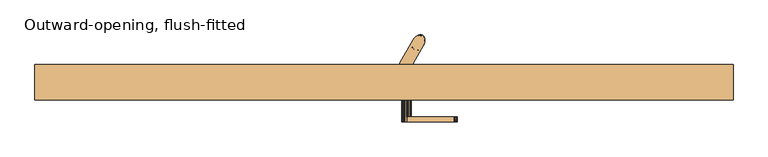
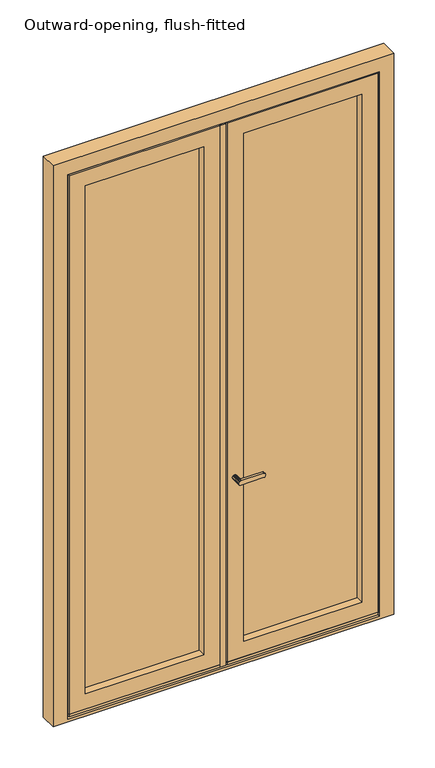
"""IFC4 building model written with IfcOpenShell, lengths in millimetres: door geometry, Outward-opening, flush-fitted."""

from ifc_helpers import new_model, si_unit, frame, origin, place, context, project, spatial, polyline, outline, extrude, faceted_brep, source, transform, mapped, element, save


def outward_opening_flush_fitted_ed5fb4ae(model_context):
    return source(origin(), model_context, "Body", "SolidModel", [
        faceted_brep([(178.0000305, 551.0, 3081.9999695), (178.0000305, 510.0, 3081.9999695), (178.0000305, 510.0, 275.0000305), (178.0000305, 551.0, 275.0000305), (93.0, 510.0, 3167.0), (93.0, 510.0, 190.0), (880.5, 510.0, 190.0), (880.5, 510.0, 3167.0), (795.4999695, 510.0, 3081.9999695), (795.4999695, 510.0, 275.0000305), (795.4999695, 551.0, 275.0000305), (163.0, 551.0, 260.0), (163.0, 551.0, 3097.0), (810.5, 551.0, 3097.0), (810.5, 551.0, 260.0), (795.4999695, 551.0, 3081.9999695), (163.0, 589.0, 3097.0), (163.0, 589.0, 260.0), (810.5, 589.0, 260.0), (810.5, 589.0, 3097.0), (180.0, 589.0, 277.0), (180.0, 589.0, 3080.0), (793.5, 589.0, 3080.0), (793.5, 589.0, 277.0), (180.0, 600.0, 3080.0), (180.0, 600.0, 277.0), (793.5, 600.0, 277.0), (61.0, 600.0, 158.0), (61.0, 600.0, 3199.0), (880.5, 600.0, 3199.0), (880.5, 600.0, 158.0), (793.5, 600.0, 3080.0), (61.0, 591.7, 3199.0), (61.0, 591.7, 158.0), (880.5, 591.7, 158.0), (880.5, 591.7, 178.5), (81.5, 591.7, 178.5), (81.5, 591.7, 3178.5), (880.5, 591.7, 3178.5), (880.5, 591.7, 3199.0), (81.5, 518.3, 3178.5), (81.5, 518.3, 178.5), (892.0, 591.7, 178.5), (892.0, 518.3, 178.5), (892.0, 518.3, 3178.5), (93.0, 518.3, 190.0), (93.0, 518.3, 3167.0), (880.5, 518.3, 3167.0), (880.5, 518.3, 190.0), (892.0, 591.7, 3178.5)], [[[0, 1, 2, 3]], [[4, 5, 6, 7], [2, 1, 8, 9]], [[3, 2, 9, 10]], [[11, 12, 13, 14], [0, 3, 10, 15]], [[16, 12, 11, 17]], [[17, 11, 14, 18]], [[16, 17, 18, 19], [20, 21, 22, 23]], [[24, 21, 20, 25]], [[25, 20, 23, 26]], [[27, 28, 29, 30], [24, 25, 26, 31]], [[32, 28, 27, 33]], [[33, 27, 30, 34]], [[32, 33, 34, 35, 36, 37, 38, 39]], [[40, 37, 36, 41]], [[41, 36, 35, 42, 43]], [[40, 41, 43, 44], [45, 46, 47, 48]], [[4, 46, 45, 5]], [[5, 45, 48, 6]], [[10, 9, 8, 15]], [[18, 14, 13, 19]], [[26, 23, 22, 31]], [[43, 42, 49, 44]], [[1, 0, 15, 8]], [[12, 16, 19, 13]], [[21, 24, 31, 22]], [[28, 32, 39, 29]], [[37, 40, 44, 49, 38]], [[46, 4, 7, 47]], [[38, 35, 34, 30, 29, 39]], [[35, 38, 49, 42]], [[6, 48, 47, 7]]]),
        faceted_brep([(949.0227579, 510.0, 1208.4772421), (951.5056846, 510.0, 1210.3824588), (954.397114, 510.0, 1211.5801281), (957.5, 510.0, 1211.9886308), (960.602886, 510.0, 1211.5801281), (963.4943154, 510.0, 1210.3824588), (965.9772421, 510.0, 1208.4772421), (967.8824588, 510.0, 1205.9943154), (969.0801281, 510.0, 1203.102886), (969.4886308, 510.0, 1200.0), (969.0801281, 510.0, 1196.897114), (967.8824588, 510.0, 1194.0056846), (965.9772421, 510.0, 1191.5227579), (963.4943154, 510.0, 1189.6175412), (960.602886, 510.0, 1188.4198719), (957.5, 510.0, 1188.0113692), (954.397114, 510.0, 1188.4198719), (951.5056846, 510.0, 1189.6175412), (949.0227579, 510.0, 1191.5227579), (947.1175412, 510.0, 1194.0056846), (945.9198719, 510.0, 1196.897114), (945.5113692, 510.0, 1200.0), (945.9198719, 510.0, 1203.102886), (947.1175412, 510.0, 1205.9943154), (960.602886, 466.5001175, 1188.4198719), (957.5, 466.5001175, 1188.0113692), (963.4943154, 466.5001175, 1189.6175412), (967.8824588, 466.5001175, 1194.0056846), (965.9772421, 466.5001175, 1191.5227579), (969.0801281, 466.5001175, 1196.897114), (969.4886308, 466.5001175, 1200.0), (969.0801281, 466.5001175, 1203.102886), (967.8824588, 466.5001175, 1205.9943154), (963.4943154, 466.5001175, 1210.3824588), (965.9772421, 466.5001175, 1208.4772421), (960.602886, 466.5001175, 1211.5801281), (957.5, 466.5001175, 1211.9886308), (954.397114, 454.0000305, 1211.5801281), (957.5, 454.0000305, 1211.9886308), (951.5056846, 454.0000305, 1210.3824588), (947.1175412, 454.0000305, 1205.9943154), (949.0227579, 454.0000305, 1208.4772421), (945.9198719, 454.0000305, 1203.102886), (945.5113692, 454.0000305, 1200.0), (945.9198719, 454.0000305, 1196.897114), (947.1175412, 454.0000305, 1194.0056846), (951.5056846, 454.0000305, 1189.6175412), (949.0227579, 454.0000305, 1191.5227579), (954.397114, 454.0000305, 1188.4198719), (957.5, 454.0000305, 1188.0113692), (1079.1617926, 454.0000305, 1188.0113692), (1080.7039971, 454.0000305, 1188.2417274), (1082.1869356, 454.0000305, 1188.9239494), (1083.5536195, 454.0000305, 1190.0318178), (1084.7515279, 454.0000305, 1191.5227579), (1085.734626, 454.0000305, 1193.3394736), (1086.4651338, 454.0000305, 1195.4121496), (1086.9149782, 454.0000305, 1197.6611342), (1087.0668721, 454.0000305, 1200.0), (1086.9149782, 454.0000305, 1202.3388658), (1086.4651338, 454.0000305, 1204.5878504), (1085.734626, 454.0000305, 1206.6605264), (1084.7515279, 454.0000305, 1208.4772421), (1083.5536195, 454.0000305, 1209.9681822), (1082.1869356, 454.0000305, 1211.0760506), (1080.7039971, 454.0000305, 1211.7582726), (1079.1617926, 454.0000305, 1211.9886308), (1086.4651338, 466.5001175, 1195.4121496), (1085.734626, 466.5001175, 1193.3394736), (1084.7515279, 466.5001175, 1191.5227579), (1083.5536195, 466.5001175, 1190.0318178), (1082.1869356, 466.5001175, 1188.9239494), (1080.7039971, 466.5001175, 1188.2417274), (1079.1617926, 466.5001175, 1188.0113692), (1079.1617926, 466.5001175, 1211.9886308), (1080.7039971, 466.5001175, 1211.7582726), (1082.1869356, 466.5001175, 1211.0760506), (1083.5536195, 466.5001175, 1209.9681822), (1084.7515279, 466.5001175, 1208.4772421), (1085.734626, 466.5001175, 1206.6605264), (1086.4651338, 466.5001175, 1204.5878504), (1086.9149782, 466.5001175, 1202.3388658), (1087.0668721, 466.5001175, 1200.0), (1086.9149782, 466.5001175, 1197.6611342), (1079.1617926, 461.0756599, 1188.0113692), (1082.8882212, 460.2500761, 1189.4269715), (1085.2725017, 460.2500743, 1192.3944932), (1086.726482, 460.250074, 1196.5198842), (1086.1334503, 460.250074, 1205.6514014), (1087.028807, 460.2500741, 1201.1750915), (1081.4565161, 460.250074, 1211.4724044), (1084.176722, 460.250074, 1209.2673369), (1079.1617926, 460.250074, 1211.9886308)], [[[0, 1, 2, 3, 4, 5, 6, 7, 8, 9, 10, 11, 12, 13, 14, 15, 16, 17, 18, 19, 20, 21, 22, 23]], [[14, 24, 25, 15]], [[13, 26, 24, 14]], [[27, 28, 12, 11]], [[13, 12, 28, 26]], [[29, 27, 11, 10]], [[30, 29, 10, 9]], [[8, 31, 30, 9]], [[7, 32, 31, 8]], [[33, 34, 6, 5]], [[7, 6, 34, 32]], [[35, 33, 5, 4]], [[36, 35, 4, 3]], [[2, 37, 38, 36, 3]], [[1, 39, 37, 2]], [[23, 40, 41, 0]], [[1, 0, 41, 39]], [[22, 42, 40, 23]], [[21, 43, 42, 22]], [[20, 44, 43, 21]], [[19, 45, 44, 20]], [[17, 46, 47, 18]], [[19, 18, 47, 45]], [[16, 48, 46, 17]], [[25, 49, 48, 16, 15]], [[45, 47, 46, 48, 49, 50, 51, 52, 53, 54, 55, 56, 57, 58, 59, 60, 61, 62, 63, 64, 65, 66, 38, 37, 39, 41, 40, 42, 43, 44]], [[67, 68, 69, 70, 71, 72, 73, 25, 24, 26, 28, 27, 29, 30, 31, 32, 34, 33, 35, 36, 74, 75, 76, 77, 78, 79, 80, 81, 82, 83]], [[49, 25, 73, 84, 50]], [[85, 52, 51]], [[53, 85, 86]], [[67, 87, 68]], [[69, 86, 70]], [[80, 88, 81]], [[72, 85, 84]], [[57, 56, 87]], [[60, 59, 89]], [[86, 87, 56]], [[76, 90, 91, 77]], [[86, 55, 54]], [[79, 78, 91, 88]], [[58, 87, 89]], [[70, 85, 71]], [[84, 73, 72]], [[50, 84, 51]], [[85, 72, 71]], [[58, 57, 87]], [[52, 85, 53]], [[86, 56, 55]], [[86, 54, 53]], [[68, 86, 69]], [[86, 85, 70]], [[74, 92, 75]], [[92, 66, 65]], [[62, 61, 88, 91]], [[87, 86, 68]], [[85, 51, 84]], [[87, 67, 83]], [[91, 90, 64, 63]], [[89, 87, 83]], [[61, 60, 88]], [[89, 88, 60]], [[90, 65, 64]], [[63, 62, 91]], [[89, 83, 82]], [[81, 89, 82]], [[88, 89, 81]], [[79, 88, 80]], [[90, 92, 65]], [[78, 77, 91]], [[75, 90, 76]], [[75, 92, 90]], [[59, 58, 89]], [[38, 66, 92, 74, 36]]]),
        extrude(outline(polyline([(919.5, 510.0), (919.5, 518.3), (1707.0, 518.3), (1707.0, 510.0), (919.5, 510.0)])), frame((0.0, 0.0, 176.0), z_axis=(0.0, 0.0, 1.0), x_axis=(1.0, 0.0, 0.0)), (0.0, 0.0, 1.0), 14.0),
        faceted_brep([(974.4561005, 600.0, 243.5), (974.4561005, 604.0, 243.5), (940.5438995, 604.0, 243.5), (940.5438995, 600.0, 243.5), (974.4561005, 604.0, 213.5), (940.5438995, 604.0, 213.5), (974.4561005, 600.0, 209.5), (974.4561005, 604.0, 209.5), (940.5438995, 600.0, 209.5), (940.5438995, 604.0, 209.5), (1000.8389949, 672.5301271, 213.5), (998.2797579, 674.6325794, 213.5), (995.1793625, 675.7977182, 213.5), (991.6932755, 675.9671186, 213.5), (987.9963038, 675.1322861, 213.5), (984.273829, 673.3350828, 213.5), (980.7125117, 670.6656279, 213.5), (977.4909311, 667.2577791, 213.5), (974.7706308, 663.2824201, 213.5), (1000.2047856, 648.5980002, 213.5), (1002.2873991, 652.9415279, 213.5), (1003.6278943, 657.4354221, 213.5), (1004.1590531, 661.8543403, 213.5), (1003.854241, 665.9766994, 213.5), (1002.7287425, 669.5957871, 213.5), (974.7706308, 663.2824201, 209.5), (977.4909311, 667.2577791, 209.5), (980.7125117, 670.6656279, 209.5), (984.273829, 673.3350828, 209.5), (987.9963038, 675.1322861, 209.5), (991.6932755, 675.9671186, 209.5), (995.1793625, 675.7977182, 209.5), (998.2797579, 674.6325794, 209.5), (1000.8389949, 672.5301271, 209.5), (1002.7287425, 669.5957871, 209.5), (1003.854241, 665.9766994, 209.5), (1004.1590531, 661.8543403, 209.5), (1003.6278943, 657.4354221, 209.5), (1002.2873991, 652.9415279, 209.5), (1000.2047856, 648.5980002, 209.5), (974.7706308, 663.2824201, 211.9099144), (1000.2047856, 648.5980002, 211.0900853), (1001.8743289, 671.1586471, 211.5), (989.8597053, 675.6737832, 211.5), (1004.1445577, 661.4468941, 211.5)], [[[0, 1, 2, 3]], [[4, 5, 2, 1]], [[6, 7, 4, 1, 0]], [[8, 6, 0, 3]], [[9, 8, 3, 2, 5]], [[10, 11, 12, 13, 14, 15, 16, 17, 18, 5, 4, 19, 20, 21, 22, 23, 24]], [[6, 8, 9, 25, 26, 27, 28, 29, 30, 31, 32, 33, 34, 35, 36, 37, 38, 39, 7]], [[9, 5, 18, 40, 25]], [[7, 39, 41, 19, 4]], [[40, 18, 17]], [[26, 25, 40]], [[24, 42, 10]], [[43, 27, 40]], [[40, 27, 26]], [[43, 30, 29]], [[15, 43, 16]], [[13, 43, 14]], [[32, 31, 43]], [[41, 39, 38]], [[20, 19, 41]], [[28, 43, 29]], [[17, 16, 40]], [[31, 30, 43]], [[35, 34, 42]], [[28, 27, 43]], [[20, 41, 44]], [[15, 14, 43]], [[13, 12, 43]], [[40, 16, 43]], [[11, 43, 12]], [[32, 43, 42]], [[34, 33, 42]], [[35, 44, 36]], [[38, 37, 41]], [[37, 44, 41]], [[36, 44, 37]], [[44, 21, 20]], [[42, 43, 11]], [[32, 42, 33]], [[42, 11, 10]], [[23, 42, 24]], [[44, 42, 23]], [[35, 42, 44]], [[23, 22, 44]], [[22, 21, 44]]]),
        faceted_brep([(1002.7287431, 669.5957857, 3143.5), (1000.8389959, 672.5301259, 3143.5), (998.2797595, 674.6325784, 3143.5), (995.1793647, 675.7977178, 3143.5), (991.6932781, 675.9671188, 3143.5), (987.9963068, 675.1322872, 3143.5), (984.2738322, 673.3350848, 3143.5), (980.712515, 670.6656309, 3143.5), (977.4909342, 667.257783, 3143.5), (974.7706335, 663.2824248, 3143.5), (972.6880202, 658.9388975, 3143.5), (971.347525, 654.4450036, 3143.5), (970.8163661, 650.0260857, 3143.5), (971.1211779, 645.9037268, 3143.5), (972.2466761, 642.2846393, 3143.5), (974.1364232, 639.3502991, 3143.5), (976.6956596, 637.2478466, 3143.5), (979.7960545, 636.0827073, 3143.5), (983.2821411, 635.9133062, 3143.5), (986.9791124, 636.7481378, 3143.5), (990.7015869, 638.5453402, 3143.5), (994.2629042, 641.2147941, 3143.5), (997.4844849, 644.622642, 3143.5), (1000.2047856, 648.5980002, 3143.5), (1002.287399, 652.9415275, 3143.5), (1003.6278941, 657.4354214, 3143.5), (1004.1590531, 661.8543393, 3143.5), (1003.8542412, 665.9766982, 3143.5), (979.7960545, 636.0827073, 213.5), (976.6956596, 637.2478466, 213.5), (974.1364232, 639.3502991, 213.5), (972.2466761, 642.2846393, 213.5), (971.1211779, 645.9037268, 213.5), (970.8163661, 650.0260857, 213.5), (971.347525, 654.4450036, 213.5), (972.6880202, 658.9388975, 213.5), (974.7706335, 663.2824248, 213.5), (977.4909342, 667.257783, 213.5), (980.712515, 670.6656309, 213.5), (984.2738322, 673.3350848, 213.5), (987.9963068, 675.1322872, 213.5), (991.6932781, 675.9671188, 213.5), (995.1793647, 675.7977178, 213.5), (998.2797595, 674.6325784, 213.5), (1000.8389959, 672.5301259, 213.5), (1002.7287431, 669.5957857, 213.5), (1003.8542412, 665.9766982, 213.5), (1004.1590531, 661.8543393, 213.5), (1003.6278941, 657.4354214, 213.5), (1002.287399, 652.9415275, 213.5), (1000.2047856, 648.5980002, 213.5), (997.4844849, 644.622642, 213.5), (994.2629042, 641.2147941, 213.5), (990.7015869, 638.5453402, 213.5), (986.9791124, 636.7481378, 213.5), (983.2821411, 635.9133062, 213.5), (998.0502556, 674.7610847, 3079.7380402), (1003.3914925, 667.8611962, 306.4022247), (1000.2047856, 648.5980002, 305.4130378), (989.859707, 675.6737836, 3050.5977728), (989.8597056, 675.6737832, 297.5191469), (996.7880419, 675.3371113, 368.2136807), (984.7975532, 673.6463918, 369.5360757), (991.2469978, 675.9183214, 447.2084663), (999.6357621, 673.6929778, 2988.7863044), (1004.1667927, 662.4635532, 2987.4639322), (1002.9131072, 669.1766102, 2913.2062685), (999.2192817, 674.017384, 2409.7470642), (986.8659446, 674.6876333, 2452.4375643), (998.4739944, 674.5174913, 2505.0162805), (1000.2047856, 648.5980002, 3051.5869622), (974.7706335, 663.2824248, 3051.5869586), (974.7706335, 663.2824248, 305.4130356), (987.3847143, 674.9025429, 2961.969358), (1000.2047856, 648.5980002, 397.3260755), (1003.9610733, 665.332167, 395.030656), (998.5058016, 674.498075, 277.2619537), (1004.1523314, 663.2227711, 1724.1060121), (1000.2047856, 648.5980002, 1769.7119622), (1000.2047856, 648.5980002, 1684.1086041), (1000.2047856, 648.5980002, 1678.5), (996.4457898, 675.4588495, 527.3867769), (1001.3278719, 671.9360197, 460.4029213), (997.5372093, 675.0207557, 2596.0713286), (985.9534283, 674.2648412, 2547.1852865), (985.6530213, 674.1130859, 2641.83422), (1003.3914918, 667.8611986, 3059.4808467), (1004.1432281, 663.4377541, 1359.2581708), (1000.2047856, 648.5980002, 1404.8641133), (1000.2047856, 648.5980002, 1316.4564502), (1000.2047856, 648.5980002, 1313.652151), (974.7706335, 663.2824248, 2959.673923), (986.2233357, 674.395863, 2823.9076024), (974.7706335, 663.2824248, 2778.6521525), (974.7706335, 663.2824248, 2867.7608867), (974.7706335, 663.2824248, 2869.1630378), (1000.2047856, 648.5980002, 764.9782266), (1004.1667946, 662.4619847, 729.3012539), (1004.1386405, 663.5297855, 810.934795), (997.5372092, 675.0207557, 2687.4402007), (997.5421341, 675.0184364, 1866.4260021), (998.3180035, 674.6103853, 1775.3205997), (985.6236508, 674.0979126, 1820.9265791), (1003.9960645, 665.0824095, 994.4103295), (1000.2047856, 648.5980002, 1040.0162643), (1000.2047856, 648.5980002, 948.8043021), (1004.0910081, 664.2169217, 1634.0302994), (1000.2047856, 648.5980002, 1587.2880378), (1004.0812109, 664.3262163, 1539.4103177), (988.9901607, 675.4509805, 1268.661843), (974.7706335, 663.2824248, 1224.5434147), (974.7706335, 663.2824248, 1313.652151), (974.7706335, 663.2824248, 1316.4564503), (998.0829736, 674.7432474, 1587.2880725), (998.240292, 674.6552453, 1495.9723965), (985.790026, 674.1830725, 1546.2390852), (974.7706335, 663.2824248, 1775.3205647), (974.7706335, 663.2824248, 1860.9239245), (974.7706335, 663.2824248, 1866.5325251), (1000.2047856, 648.5980002, 2225.7717734), (1004.1047992, 664.0497546, 2173.886039), (1004.108227, 664.005281, 2271.3777739), (985.6462162, 674.1095756, 2003.3232618), (997.5302824, 675.0240124, 1957.7445198), (985.6562276, 674.1147387, 1912.0563983), (1004.0845606, 664.289619, 2641.7557652), (985.5904113, 674.0806681, 2733.0461801), (996.41411, 675.4694341, 2764.577143), (1004.1590389, 663.0137697, 1450.4701311), (1000.2047856, 648.5980002, 1496.0760755), (1000.2047856, 648.5980002, 1408.3694886), (998.9872046, 674.1836001, 1404.8641518), (1004.142467, 661.4010489, 1997.7418929), (1004.0350969, 664.7689324, 1906.5299328), (1002.26216, 670.5132977, 2021.9103127), (1003.8434249, 666.0346915, 2075.1907571), (987.3532472, 674.8900311, 2364.4226633), (974.7706335, 663.2824248, 2322.5923388), (974.7706335, 663.2824248, 2408.1956979), (974.7706335, 663.2824248, 2413.8042992), (997.2274408, 675.1601998, 2136.3035424), (996.5316123, 675.4296, 2050.7292003), (985.2903058, 673.9214837, 2094.5624594), (1004.1353361, 663.5913952, 2546.065268), (994.8884172, 675.8525719, 2903.7179625), (999.6435788, 673.6865498, 2837.590232), (986.2521526, 674.4095548, 1448.6688004), (985.1360791, 673.8372234, 1086.6739061), (986.0909148, 674.3322101, 1178.586942), (999.1168913, 674.0919457, 1127.9864977), (987.2689244, 674.8561695, 1352.6068721), (996.6863809, 675.3747017, 1040.7173889), (985.4407446, 674.0020674, 991.5843918), (985.426169, 673.9943292, 902.8478344), (974.7706335, 663.2824248, 948.8043021), (1000.2047856, 648.5980002, 2043.347849), (1000.2047856, 648.5980002, 1957.7444883), (1000.2047856, 648.5980002, 1952.1358867), (997.6360492, 674.9735804, 2225.5340426), (974.7706335, 663.2824248, 1408.3694859), (974.7706335, 663.2824248, 1496.0760755), (974.7706335, 663.2824248, 1500.2825273), (985.6436785, 674.1082657, 2185.7200467), (985.6761919, 674.1250138, 2276.9863796), (1004.1540023, 663.176361, 2454.1522322), (1000.2047856, 648.5980002, 2500.1087357), (1000.2047856, 648.5980002, 2413.8042991), (1000.2047856, 648.5980002, 2408.1956979), (974.7706335, 663.2824248, 2140.1684179), (1004.1476808, 663.3391965, 2362.5897342), (998.0782705, 674.7458212, 2314.751399), (985.6795619, 674.1267456, 1638.152121), (974.7706335, 663.2824248, 1592.1955686), (974.7706335, 663.2824248, 1678.5), (974.7706335, 663.2824248, 1684.1086042), (1004.1378645, 663.5445737, 902.8478311), (1000.2047856, 648.5980002, 856.8912643), (1004.1080675, 660.8204897, 461.0188884), (1000.2047856, 648.5980002, 489.2391133), (1000.2047856, 648.5980002, 581.152151), (1004.0915247, 664.2109596, 535.1956817), (1004.1476083, 663.34089, 625.0231551), (1000.5404256, 672.8545378, 687.0081892), (991.6427447, 675.9623413, 618.1162757), (986.6250235, 674.581566, 709.2800933), (1004.1488698, 663.3109436, 1084.2629381), (1004.1300635, 663.6831987, 1265.4959437), (981.7827971, 671.5747831, 429.2632891), (974.7706335, 663.2824248, 397.326077), (974.7706335, 663.2824248, 856.8912608), (1000.5765226, 672.816715, 591.4465366), (1000.2047856, 648.5980002, 673.0651888), (996.6690667, 675.3809822, 765.1720699), (985.8081612, 674.1922389, 810.9347985), (998.2797594, 674.6325785, 849.074452), (983.8642076, 673.0777933, 2893.9193924), (974.7706335, 663.2824248, 2687.4401921), (974.7706335, 663.2824248, 2775.847849), (1004.0022221, 665.0357025, 2737.7503545), (1003.7943239, 658.2981464, 2904.9330373), (1004.1654893, 662.675366, 2845.9868347), (974.7706335, 663.2824248, 2596.2282259), (974.7706335, 663.2824248, 2683.9348112), (974.7706335, 663.2824248, 2500.1087357), (974.7706335, 663.2824248, 2505.0162597), (1000.2047856, 648.5980002, 2775.847849), (1000.2047856, 648.5980002, 2687.4401891), (1000.2047856, 648.5980002, 2683.9348112), (1000.2047856, 648.5980002, 2316.9837357), (1000.2047856, 648.5980002, 2231.3803725), (974.7706335, 663.2824248, 2231.3803784), (974.7706335, 663.2824248, 2316.9837357), (1000.2047856, 648.5980002, 2592.0217734), (1000.2047856, 648.5980002, 2505.0162625), (1000.2047856, 648.5980002, 2322.5923358), (1000.2047856, 648.5980002, 2134.5598112), (1000.2047856, 648.5980002, 1866.5325307), (1000.2047856, 648.5980002, 1860.9239245), (974.7706335, 663.2824248, 2048.9564517), (974.7706335, 663.2824248, 2134.5598112), (998.1209471, 674.7223457, 1681.3109984), (974.7706335, 663.2824248, 2225.7717734), (1004.1410665, 663.4821612, 1815.3179724), (1000.2047856, 648.5980002, 1775.3205674), (974.7706335, 663.2824248, 1952.1358867), (974.7706335, 663.2824248, 1957.7444855), (986.1515406, 674.3615022, 1729.714619), (974.7706335, 663.2824248, 1769.7119622), (974.7706335, 663.2824248, 1587.2880378), (974.7706335, 663.2824248, 1404.8641133), (974.7706335, 663.2824248, 2043.347849), (999.0815314, 674.117241, 1314.91521), (998.6640506, 674.399024, 1217.3396976), (974.7706335, 663.2824248, 1132.6303791), (974.7706335, 663.2824248, 1222.4401888), (1000.2047856, 648.5980002, 1500.2825271), (1000.2047856, 648.5980002, 1592.1955656), (1004.1298018, 663.6875728, 1174.2378881), (1000.2047856, 648.5980002, 1222.4401888), (997.4523204, 675.0602236, 944.8711335), (1000.2047856, 648.5980002, 1131.2282266), (1000.2047856, 648.5980002, 1040.7173405), (1000.2047856, 648.5980002, 1132.6303732), (1000.2047856, 648.5980002, 1224.5434117), (974.7706335, 663.2824248, 764.9782251), (974.7706335, 663.2824248, 581.1521539), (974.7706335, 663.2824248, 673.0651895), (981.1340376, 671.0354456, 627.1087243), (974.7706335, 663.2824248, 1040.7173435), (974.7706335, 663.2824248, 1131.2282266), (974.7706335, 663.2824248, 1040.0162643), (974.7706335, 663.2824248, 2592.0217734), (983.9200666, 673.1136004, 535.1956868), (1000.2047856, 648.5980002, 2596.2282258), (1000.2047856, 648.5980002, 2048.9564516), (1000.2047856, 648.5980002, 2140.1684149), (974.7706335, 663.2824248, 489.2391183), (1000.2047856, 648.5980002, 2867.7608867), (1000.2047856, 648.5980002, 2959.6739245), (1000.2047856, 648.5980002, 2778.6521525), (1000.2047856, 648.5980002, 2869.1630406), (976.9251635, 637.1193403, 3079.7380402), (971.5839266, 644.0192288, 306.4022247), (985.1157121, 636.2066414, 3050.5977728), (985.1157135, 636.2066418, 297.5191469), (978.1873773, 636.5433137, 368.2136807), (990.1778659, 638.2340332, 369.5360757), (983.7284213, 635.9621036, 447.2084663), (975.339657, 638.1874472, 2988.7863044), (970.8086265, 649.4168718, 2987.4639322), (972.062312, 642.7038148, 2913.2062685), (975.7561375, 637.863041, 2409.7470642), (988.1094745, 637.1927917, 2452.4375643), (976.5014247, 637.3629337, 2505.0162805), (987.5907049, 636.9778821, 2961.969358), (971.0143458, 646.548258, 395.030656), (976.4696176, 637.38235, 277.2619537), (970.8230877, 648.6576539, 1724.1060121), (978.5296294, 636.4215755, 527.3867769), (973.6475472, 639.9444054, 460.4029213), (977.4382098, 636.8596693, 2596.0713286), (989.0219908, 637.6155838, 2547.1852865), (989.3223978, 637.7673391, 2641.83422), (971.5839274, 644.0192264, 3059.4808467), (975.9882145, 637.6968249, 1404.8641518), (970.832191, 648.4426709, 1359.2581708), (975.8938878, 637.763184, 1314.91521), (988.7520835, 637.484562, 2823.9076024), (970.8086246, 649.4184403, 729.3012539), (970.8367786, 648.3506395, 810.934795), (977.4382099, 636.8596693, 2687.4402007), (977.4332851, 636.8619886, 1866.4260021), (976.6574157, 637.2700397, 1775.3205997), (989.3517684, 637.7825124, 1820.9265791), (970.9793547, 646.7980155, 994.4103295), (970.884411, 647.6635033, 1634.0302994), (970.8942082, 647.5542087, 1539.4103177), (985.9852584, 636.4294445, 1268.661843), (976.8924456, 637.1371776, 1587.2880725), (976.7351271, 637.2251797, 1495.9723965), (989.1853931, 637.6973525, 1546.2390852), (970.8706199, 647.8306704, 2173.886039), (970.8671922, 647.875144, 2271.3777739), (989.3292029, 637.7708494, 2003.3232618), (977.4451368, 636.8564126, 1957.7445198), (989.3191915, 637.7656863, 1912.0563983), (970.8908585, 647.590806, 2641.7557652), (989.3850079, 637.7997569, 2733.0461801), (978.5613091, 636.4109909, 2764.577143), (970.8163802, 648.8666553, 1450.4701311), (970.8329521, 650.4793761, 1997.7418929), (970.9403223, 647.1114926, 1906.5299328), (972.7132591, 641.3671273, 2021.9103127), (971.1319943, 645.8457335, 2075.1907571), (987.6221719, 636.9903939, 2364.4226633), (977.7479784, 636.7202252, 2136.3035424), (978.4438068, 636.450825, 2050.7292003), (989.6851134, 637.9589413, 2094.5624594), (970.840083, 648.2890298, 2546.065268), (980.0870019, 636.0278531, 2903.7179625), (975.3318403, 638.1938752, 2837.590232), (988.7232666, 637.4708702, 1448.6688004), (989.8393401, 638.0432016, 1086.6739061), (988.8845043, 637.5482149, 1178.586942), (975.8585279, 637.7884793, 1127.9864977), (987.7064948, 637.0242555, 1352.6068721), (978.2890382, 636.5057233, 1040.7173889), (989.5346745, 637.8783576, 991.5843918), (989.5492502, 637.8860958, 902.8478344), (977.3393699, 636.9068446, 2225.5340426), (989.3317407, 637.7721593, 2185.7200467), (989.2992273, 637.7554112, 2276.9863796), (970.8214168, 648.704064, 2454.1522322), (970.8277383, 648.5412285, 2362.5897342), (976.8971487, 637.1346038, 2314.751399), (989.2958573, 637.7536794, 1638.152121), (970.8375547, 648.3358513, 902.8478311), (970.8673516, 651.0599353, 461.0188884), (970.8838944, 647.6694654, 535.1956817), (970.8278109, 648.539535, 625.0231551), (974.4349936, 639.0258872, 687.0081892), (983.3326745, 635.9180837, 618.1162757), (988.3503956, 637.298859, 709.2800933), (970.8265493, 648.5694814, 1084.2629381), (970.8453557, 648.1972263, 1265.4959437), (993.1926221, 640.3056419, 429.2632891), (974.3988966, 639.06371, 591.4465366), (978.3063525, 636.4994428, 765.1720699), (989.167258, 637.6881861, 810.9347985), (976.6956597, 637.2478465, 849.074452), (991.1112116, 638.8026317, 2893.9193924), (970.9731971, 646.8447225, 2737.7503545), (971.1810952, 653.5822786, 2904.9330373), (970.8099299, 649.205059, 2845.9868347), (976.854472, 637.1580793, 1681.3109984), (970.8343527, 648.3982638, 1815.3179724), (988.8238786, 637.5189228, 1729.714619), (976.3113685, 637.481401, 1217.3396976), (970.8456173, 648.1928522, 1174.2378881), (977.5230988, 636.8202014, 944.8711335), (993.8413816, 640.8449794, 627.1087243), (991.0553525, 638.7668246, 535.1956868)], [[[0, 1, 2, 3, 4, 5, 6, 7, 8, 9, 10, 11, 12, 13, 14, 15, 16, 17, 18, 19, 20, 21, 22, 23, 24, 25, 26, 27]], [[28, 29, 30, 31, 32, 33, 34, 35, 36, 37, 38, 39, 40, 41, 42, 43, 44, 45, 46, 47, 48, 49, 50, 51, 52, 53, 54, 55]], [[2, 1, 56]], [[57, 58, 48]], [[7, 6, 59]], [[5, 4, 59]], [[38, 60, 39]], [[61, 62, 63]], [[4, 3, 56]], [[64, 65, 66]], [[40, 60, 41]], [[67, 68, 69]], [[24, 23, 70]], [[58, 50, 49]], [[71, 9, 8]], [[37, 36, 72]], [[73, 59, 64]], [[60, 40, 39]], [[74, 58, 75]], [[45, 76, 57]], [[77, 78, 79, 80]], [[71, 8, 7]], [[63, 81, 82]], [[83, 84, 85]], [[25, 86, 26]], [[24, 70, 25]], [[87, 88, 89, 90]], [[75, 58, 57]], [[72, 62, 60]], [[5, 59, 6]], [[91, 71, 73]], [[70, 65, 86]], [[42, 41, 76]], [[46, 57, 47]], [[92, 93, 94, 95]], [[96, 97, 98]], [[43, 42, 76]], [[99, 83, 85]], [[86, 27, 26]], [[100, 101, 102]], [[4, 56, 59]], [[64, 56, 86]], [[68, 84, 69]], [[46, 45, 57]], [[58, 49, 48]], [[76, 41, 60]], [[59, 71, 7]], [[45, 44, 76]], [[56, 1, 0]], [[75, 57, 61]], [[61, 76, 60]], [[27, 86, 0]], [[47, 57, 48]], [[37, 72, 38]], [[103, 104, 105]], [[0, 86, 56]], [[38, 72, 60]], [[73, 71, 59]], [[64, 86, 65]], [[61, 60, 62]], [[25, 70, 86]], [[106, 107, 108]], [[109, 110, 111, 112]], [[113, 114, 115]], [[102, 116, 117, 118]], [[119, 120, 121]], [[122, 123, 124]], [[99, 125, 83]], [[126, 92, 127]], [[128, 129, 130, 88]], [[128, 87, 131]], [[123, 132, 133]], [[134, 135, 132]], [[136, 137, 138, 139]], [[140, 141, 142]], [[143, 69, 83]], [[144, 66, 145]], [[115, 114, 146]], [[147, 148, 149]], [[150, 146, 131]], [[151, 152, 147]], [[152, 153, 154]], [[132, 155, 156, 157]], [[121, 120, 158]], [[146, 159, 160, 161]], [[162, 163, 158]], [[164, 165, 166, 167]], [[168, 162, 142]], [[169, 121, 170]], [[171, 172, 173, 174]], [[98, 175, 176]], [[177, 178, 74]], [[179, 180, 181]], [[182, 183, 184]], [[103, 185, 104]], [[186, 87, 90]], [[187, 62, 188]], [[179, 178, 180]], [[154, 153, 189]], [[181, 180, 190]], [[180, 177, 82]], [[191, 181, 97]], [[82, 81, 180]], [[105, 176, 175]], [[182, 184, 192]], [[193, 194, 192]], [[195, 95, 91]], [[126, 196, 197, 93]], [[99, 198, 125]], [[66, 199, 200]], [[93, 92, 126]], [[195, 144, 92]], [[144, 145, 92]], [[84, 201, 85]], [[85, 201, 202, 196]], [[126, 127, 99]], [[68, 139, 203, 204]], [[84, 68, 204]], [[83, 69, 84]], [[143, 83, 125]], [[198, 205, 206, 207]], [[125, 198, 207]], [[137, 136, 163]], [[67, 136, 68]], [[121, 208, 209, 119]], [[163, 210, 211, 137]], [[143, 212, 213, 165]], [[210, 163, 162]], [[170, 163, 136]], [[169, 167, 214, 208]], [[164, 167, 169]], [[158, 170, 121]], [[140, 120, 135]], [[120, 215, 135]], [[122, 142, 141]], [[133, 157, 216, 217]], [[126, 85, 196]], [[85, 126, 99]], [[143, 164, 69]], [[212, 143, 125]], [[67, 69, 164]], [[142, 218, 219, 168]], [[140, 162, 158]], [[67, 169, 170]], [[169, 208, 121]], [[220, 77, 106]], [[162, 168, 221, 210]], [[123, 133, 100]], [[155, 132, 135]], [[222, 217, 223, 78]], [[73, 64, 144]], [[145, 198, 127]], [[165, 164, 143]], [[67, 164, 169]], [[120, 140, 158]], [[170, 158, 163]], [[122, 218, 142]], [[140, 142, 162]], [[124, 118, 224, 225]], [[122, 124, 225]], [[118, 124, 102]], [[124, 123, 100]], [[220, 171, 226]], [[226, 174, 227, 116]], [[226, 101, 220]], [[102, 124, 100]], [[222, 101, 100]], [[171, 174, 226]], [[115, 161, 228, 172]], [[113, 220, 106]], [[146, 161, 115]], [[220, 113, 171]], [[150, 112, 229, 159]], [[146, 150, 159]], [[108, 113, 106]], [[133, 217, 222]], [[113, 108, 114]], [[114, 128, 131]], [[80, 106, 77]], [[133, 222, 100]], [[77, 220, 101]], [[122, 225, 230, 218]], [[102, 226, 116]], [[101, 226, 102]], [[171, 115, 172]], [[113, 115, 171]], [[77, 222, 78]], [[101, 222, 77]], [[110, 109, 148]], [[231, 186, 232]], [[147, 233, 148]], [[148, 233, 234, 110]], [[231, 232, 109]], [[108, 107, 235, 129]], [[106, 80, 236, 107]], [[114, 131, 146]], [[150, 131, 231]], [[129, 128, 108]], [[87, 231, 131]], [[232, 186, 237]], [[186, 238, 237]], [[114, 108, 128]], [[128, 88, 87]], [[109, 150, 231]], [[231, 87, 186]], [[237, 149, 232]], [[185, 149, 237]], [[151, 103, 239]], [[240, 185, 237]], [[239, 175, 194]], [[232, 149, 148]], [[103, 151, 185]], [[151, 149, 185]], [[185, 240, 241, 104]], [[237, 238, 242, 240]], [[186, 90, 243, 238]], [[193, 153, 194]], [[184, 244, 193]], [[189, 193, 244]], [[239, 194, 153]], [[245, 246, 247]], [[190, 81, 183]], [[189, 153, 193]], [[151, 239, 152]], [[153, 152, 239]], [[103, 175, 239]], [[147, 248, 249, 233]], [[152, 154, 250, 248]], [[105, 175, 103]], [[96, 98, 176]], [[98, 194, 175]], [[192, 194, 98]], [[248, 147, 152]], [[149, 151, 147]], [[84, 204, 251, 201]], [[170, 136, 67]], [[139, 68, 136]], [[122, 141, 123]], [[141, 140, 135]], [[191, 97, 96]], [[190, 183, 182]], [[191, 179, 181]], [[247, 246, 184]], [[252, 247, 183]], [[125, 207, 253, 212]], [[135, 215, 254, 155]], [[120, 119, 255, 215]], [[112, 150, 109]], [[109, 232, 148]], [[256, 245, 252]], [[188, 62, 72]], [[75, 61, 82]], [[62, 187, 63]], [[252, 81, 63]], [[200, 199, 257]], [[258, 65, 70]], [[205, 198, 200]], [[65, 199, 66]], [[200, 145, 66]], [[193, 192, 184]], [[97, 182, 192]], [[145, 200, 198]], [[200, 257, 259, 205]], [[63, 82, 61]], [[177, 75, 82]], [[134, 141, 135]], [[132, 157, 133]], [[246, 244, 184]], [[66, 144, 64]], [[195, 73, 144]], [[73, 195, 91]], [[195, 92, 95]], [[98, 97, 192]], [[181, 182, 97]], [[187, 256, 252]], [[81, 252, 183]], [[75, 177, 74]], [[178, 177, 180]], [[99, 127, 198]], [[145, 127, 92]], [[199, 258, 260, 257]], [[258, 199, 65]], [[63, 187, 252]], [[187, 188, 256]], [[43, 76, 44]], [[57, 76, 61]], [[2, 56, 3]], [[59, 56, 64]], [[81, 190, 180]], [[181, 190, 182]], [[134, 123, 141]], [[134, 132, 123]], [[245, 247, 252]], [[183, 247, 184]], [[16, 15, 261]], [[262, 72, 34]], [[21, 20, 263]], [[19, 18, 263]], [[52, 264, 53]], [[265, 266, 267]], [[18, 17, 261]], [[268, 269, 270]], [[54, 264, 55]], [[271, 272, 273]], [[10, 9, 71]], [[72, 36, 35]], [[70, 23, 22]], [[51, 50, 58]], [[274, 263, 268]], [[264, 54, 53]], [[188, 72, 275]], [[31, 276, 262]], [[277, 227, 174, 173]], [[70, 22, 21]], [[267, 278, 279]], [[280, 281, 282]], [[11, 283, 12]], [[10, 71, 11]], [[284, 285, 286]], [[275, 72, 262]], [[58, 266, 264]], [[19, 263, 20]], [[258, 70, 274]], [[71, 269, 283]], [[28, 55, 276]], [[32, 262, 33]], [[287, 259, 257, 260]], [[244, 288, 289]], [[29, 28, 276]], [[290, 280, 282]], [[283, 13, 12]], [[291, 292, 293]], [[18, 261, 263]], [[268, 261, 283]], [[272, 281, 273]], [[32, 31, 262]], [[72, 35, 34]], [[276, 55, 264]], [[263, 70, 21]], [[31, 30, 276]], [[261, 15, 14]], [[275, 262, 265]], [[265, 276, 264]], [[13, 283, 14]], [[33, 262, 34]], [[51, 58, 52]], [[294, 250, 154]], [[14, 283, 261]], [[52, 58, 264]], [[274, 70, 263]], [[268, 283, 269]], [[265, 264, 266]], [[11, 71, 283]], [[295, 228, 296]], [[297, 243, 90, 89]], [[298, 299, 300]], [[293, 223, 217, 216]], [[221, 301, 302]], [[303, 304, 305]], [[290, 306, 280]], [[307, 287, 308]], [[285, 229, 112, 111]], [[309, 285, 284]], [[304, 310, 311]], [[312, 313, 310]], [[314, 214, 167, 166]], [[315, 316, 317]], [[318, 273, 280]], [[319, 270, 320]], [[300, 299, 321]], [[322, 323, 324]], [[325, 321, 284]], [[326, 327, 322]], [[327, 328, 105]], [[310, 230, 225, 224]], [[302, 301, 329]], [[321, 130, 129, 235]], [[330, 331, 329]], [[332, 203, 139, 138]], [[255, 330, 317]], [[333, 302, 334]], [[335, 236, 80, 79]], [[289, 336, 189]], [[337, 256, 188]], [[245, 338, 339]], [[340, 341, 342]], [[294, 343, 250]], [[344, 285, 111]], [[345, 266, 74]], [[245, 256, 338]], [[105, 328, 176]], [[339, 338, 346]], [[338, 337, 279]], [[246, 339, 288]], [[279, 278, 338]], [[154, 189, 336]], [[340, 342, 347]], [[348, 349, 347]], [[350, 260, 258]], [[307, 206, 205, 259]], [[290, 351, 306]], [[270, 352, 353]], [[259, 287, 307]], [[350, 319, 287]], [[319, 320, 287]], [[281, 253, 282]], [[282, 253, 207, 206]], [[307, 308, 290]], [[272, 166, 165, 213]], [[281, 272, 213]], [[280, 273, 281]], [[318, 280, 306]], [[351, 197, 196, 202]], [[306, 351, 202]], [[214, 314, 331]], [[271, 314, 272]], [[302, 211, 210, 221]], [[331, 209, 208, 214]], [[318, 251, 204, 203]], [[209, 331, 330]], [[334, 331, 314]], [[333, 138, 137, 211]], [[332, 138, 333]], [[329, 334, 302]], [[315, 301, 313]], [[301, 219, 313]], [[303, 317, 316]], [[311, 224, 118, 117]], [[307, 282, 206]], [[282, 307, 290]], [[318, 332, 273]], [[251, 318, 306]], [[271, 273, 332]], [[317, 254, 215, 255]], [[315, 330, 329]], [[271, 333, 334]], [[333, 211, 302]], [[354, 277, 295]], [[330, 255, 119, 209]], [[304, 311, 291]], [[230, 310, 313]], [[355, 117, 116, 227]], [[274, 268, 319]], [[320, 351, 308]], [[203, 332, 318]], [[271, 332, 333]], [[301, 315, 329]], [[334, 329, 331]], [[303, 254, 317]], [[315, 317, 330]], [[305, 216, 157, 156]], [[303, 305, 156]], [[216, 305, 293]], [[305, 304, 291]], [[354, 335, 356]], [[356, 79, 78, 223]], [[356, 292, 354]], [[293, 305, 291]], [[355, 292, 291]], [[335, 79, 356]], [[300, 235, 107, 236]], [[298, 354, 295]], [[321, 235, 300]], [[354, 298, 335]], [[325, 89, 88, 130]], [[321, 325, 130]], [[296, 298, 295]], [[311, 117, 355]], [[298, 296, 299]], [[299, 309, 284]], [[173, 295, 277]], [[311, 355, 291]], [[277, 354, 292]], [[303, 156, 155, 254]], [[293, 356, 223]], [[292, 356, 293]], [[335, 300, 236]], [[298, 300, 335]], [[277, 355, 227]], [[292, 355, 277]], [[243, 297, 323]], [[286, 344, 357]], [[322, 242, 323]], [[323, 242, 238, 243]], [[286, 357, 297]], [[296, 228, 161, 160]], [[295, 173, 172, 228]], [[299, 284, 321]], [[309, 160, 159, 229]], [[160, 309, 296]], [[286, 325, 284]], [[357, 344, 358]], [[344, 234, 358]], [[299, 296, 309]], [[309, 229, 285]], [[297, 325, 286]], [[286, 285, 344]], [[358, 324, 357]], [[343, 324, 358]], [[326, 294, 359]], [[249, 343, 358]], [[359, 336, 349]], [[357, 324, 323]], [[294, 326, 343]], [[326, 324, 343]], [[343, 249, 248, 250]], [[358, 234, 233, 249]], [[344, 111, 110, 234]], [[348, 328, 349]], [[342, 96, 348]], [[176, 348, 96]], [[359, 349, 328]], [[179, 191, 360]], [[346, 278, 341]], [[176, 328, 348]], [[326, 359, 327]], [[328, 327, 359]], [[294, 336, 359]], [[322, 241, 240, 242]], [[327, 105, 104, 241]], [[154, 336, 294]], [[244, 289, 189]], [[289, 349, 336]], [[347, 349, 289]], [[241, 322, 327]], [[324, 326, 322]], [[281, 213, 212, 253]], [[334, 314, 271]], [[166, 272, 314]], [[303, 316, 304]], [[316, 315, 313]], [[246, 288, 244]], [[346, 341, 340]], [[246, 245, 339]], [[360, 191, 342]], [[361, 360, 341]], [[306, 202, 201, 251]], [[313, 219, 218, 230]], [[301, 221, 168, 219]], [[89, 325, 297]], [[297, 357, 323]], [[178, 179, 361]], [[74, 266, 58]], [[275, 265, 279]], [[266, 345, 267]], [[361, 278, 267]], [[353, 352, 94]], [[91, 269, 71]], [[197, 351, 353]], [[269, 352, 270]], [[353, 320, 270]], [[348, 347, 342]], [[288, 340, 347]], [[320, 353, 351]], [[353, 94, 93, 197]], [[267, 279, 265]], [[337, 275, 279]], [[312, 316, 313]], [[310, 224, 311]], [[191, 96, 342]], [[270, 319, 268]], [[350, 274, 319]], [[274, 350, 258]], [[350, 287, 260]], [[289, 288, 347]], [[339, 340, 288]], [[345, 178, 361]], [[278, 361, 341]], [[275, 337, 188]], [[256, 337, 338]], [[290, 308, 351]], [[320, 308, 287]], [[352, 91, 95, 94]], [[91, 352, 269]], [[267, 345, 361]], [[345, 74, 178]], [[29, 276, 30]], [[262, 276, 265]], [[16, 261, 17]], [[263, 261, 268]], [[278, 346, 338]], [[339, 346, 340]], [[312, 304, 316]], [[312, 310, 304]], [[179, 360, 361]], [[341, 360, 342]]]),
        faceted_brep([(940.5438995, 600.0, 3113.5), (940.5438995, 604.0, 3113.5), (974.4561005, 604.0, 3113.5), (974.4561005, 600.0, 3113.5), (940.5438995, 604.0, 3143.5), (974.4561005, 604.0, 3143.5), (974.4561005, 604.0, 3147.5), (974.4561005, 600.0, 3147.5), (940.5438995, 600.0, 3147.5), (940.5438995, 604.0, 3147.5), (974.7706335, 663.2824248, 3143.5), (977.4909342, 667.257783, 3143.5), (980.712515, 670.6656309, 3143.5), (984.2738322, 673.3350848, 3143.5), (987.9963068, 675.1322872, 3143.5), (991.6932781, 675.9671188, 3143.5), (995.1793647, 675.7977178, 3143.5), (998.2797595, 674.6325784, 3143.5), (1000.8389959, 672.5301259, 3143.5), (1002.7287431, 669.5957857, 3143.5), (1003.8542412, 665.9766982, 3143.5), (1004.1590531, 661.8543393, 3143.5), (1003.6278941, 657.4354214, 3143.5), (1002.287399, 652.9415275, 3143.5), (1000.2047856, 648.5980002, 3143.5), (1000.8389959, 672.5301259, 3147.5), (998.2797595, 674.6325784, 3147.5), (995.1793647, 675.7977178, 3147.5), (991.6932781, 675.9671188, 3147.5), (987.9963068, 675.1322872, 3147.5), (984.2738322, 673.3350848, 3147.5), (980.712515, 670.6656309, 3147.5), (977.4909342, 667.257783, 3147.5), (974.7706335, 663.2824248, 3147.5), (1000.2047856, 648.5980002, 3147.5), (1002.287399, 652.9415275, 3147.5), (1003.6278941, 657.4354214, 3147.5), (1004.1590531, 661.8543393, 3147.5), (1003.8542412, 665.9766982, 3147.5), (1002.7287431, 669.5957857, 3147.5), (974.7706335, 663.2824248, 3145.9099144), (1000.2047856, 648.5980002, 3145.0900851), (1001.8743297, 671.1586458, 3145.5), (989.8597081, 675.6737838, 3145.5), (1004.1445577, 661.4468931, 3145.5)], [[[0, 1, 2, 3]], [[2, 1, 4, 5]], [[3, 2, 5, 6, 7]], [[0, 3, 7, 8]], [[1, 0, 8, 9, 4]], [[5, 4, 10, 11, 12, 13, 14, 15, 16, 17, 18, 19, 20, 21, 22, 23, 24]], [[25, 26, 27, 28, 29, 30, 31, 32, 33, 9, 8, 7, 6, 34, 35, 36, 37, 38, 39]], [[4, 9, 33, 40, 10]], [[5, 24, 41, 34, 6]], [[40, 33, 32]], [[11, 10, 40]], [[39, 42, 25]], [[43, 12, 40]], [[40, 12, 11]], [[43, 15, 14]], [[30, 43, 31]], [[28, 43, 29]], [[17, 16, 43]], [[41, 24, 23]], [[35, 34, 41]], [[13, 43, 14]], [[32, 31, 40]], [[16, 15, 43]], [[20, 19, 42]], [[13, 12, 43]], [[35, 41, 44]], [[30, 29, 43]], [[28, 27, 43]], [[40, 31, 43]], [[26, 43, 27]], [[17, 43, 42]], [[19, 18, 42]], [[20, 44, 21]], [[23, 22, 41]], [[22, 44, 41]], [[21, 44, 22]], [[44, 36, 35]], [[42, 43, 26]], [[17, 42, 18]], [[42, 26, 25]], [[38, 42, 39]], [[44, 42, 38]], [[20, 42, 44]], [[38, 37, 44]], [[37, 36, 44]]]),
        extrude(outline(polyline([(989.5, 589.0), (1637.0, 589.0), (1637.0, 551.0), (989.5, 551.0), (989.5, 589.0)])), frame((0.0, 0.0, 260.0), z_axis=(0.0, 0.0, 1.0), x_axis=(1.0, 0.0, 0.0)), (0.0, 0.0, 1.0), 2837.0),
        extrude(outline(polyline([(93.0, 510.0), (93.0, 518.3), (880.5, 518.3), (880.5, 510.0), (93.0, 510.0)])), frame((0.0, 0.0, 176.0160203), z_axis=(0.0, 0.0, 1.0), x_axis=(1.0, 0.0, 0.0)), (0.0, 0.0, 1.0), 13.9839797),
        extrude(outline(polyline([(912.5, 510.0), (880.5, 510.0), (880.5, 518.3), (912.5, 518.3), (912.5, 510.0)])), frame((0.0, 0.0, 176.0160203), z_axis=(0.0, 0.0, 1.0), x_axis=(1.0, 0.0, 0.0)), (0.0, 0.0, 1.0), 2990.9839797),
        faceted_brep([(908.0, 518.3, 3178.5), (908.0, 591.7, 3178.5), (908.0, 591.7, 178.5), (908.0, 518.3, 178.5), (887.5, 591.7, 3199.0), (887.5, 591.7, 158.0), (1739.0, 591.7, 158.0), (1739.0, 591.7, 3199.0), (1718.5, 591.7, 3178.5), (1718.5, 591.7, 178.5), (1718.5, 518.3, 178.5), (1718.5, 518.3, 3178.5), (1707.0, 518.3, 3167.0), (1707.0, 518.3, 190.0), (919.5, 518.3, 190.0), (919.5, 518.3, 3167.0), (919.5, 510.0, 3167.0), (919.5, 510.0, 190.0), (1707.0, 510.0, 190.0), (1707.0, 510.0, 3167.0), (1621.9999695, 510.0, 3081.9999695), (1621.9999695, 510.0, 275.0000305), (1004.5000305, 510.0, 275.0000305), (1004.5000305, 510.0, 3081.9999695), (1004.5000305, 551.0, 3081.9999695), (1004.5000305, 551.0, 275.0000305), (1621.9999695, 551.0, 275.0000305), (1637.0, 551.0, 3097.0), (1637.0, 551.0, 260.0), (989.5, 551.0, 260.0), (989.5, 551.0, 3097.0), (1621.9999695, 551.0, 3081.9999695), (989.5, 589.0, 3097.0), (989.5, 589.0, 260.0), (1637.0, 589.0, 260.0), (1637.0, 589.0, 3097.0), (1620.0, 589.0, 3080.0), (1620.0, 589.0, 277.0), (1006.5, 589.0, 277.0), (1006.5, 589.0, 3080.0), (1006.5, 600.0, 3080.0), (1006.5, 600.0, 277.0), (1620.0, 600.0, 277.0), (1739.0, 600.0, 3199.0), (1739.0, 600.0, 158.0), (887.5, 600.0, 158.0), (887.5, 600.0, 3199.0), (1620.0, 600.0, 3080.0)], [[[0, 1, 2, 3]], [[4, 5, 6, 7], [8, 9, 2, 1]], [[3, 2, 9, 10]], [[0, 3, 10, 11], [12, 13, 14, 15]], [[16, 15, 14, 17]], [[17, 14, 13, 18]], [[16, 17, 18, 19], [20, 21, 22, 23]], [[24, 23, 22, 25]], [[25, 22, 21, 26]], [[27, 28, 29, 30], [24, 25, 26, 31]], [[32, 30, 29, 33]], [[33, 29, 28, 34]], [[32, 33, 34, 35], [36, 37, 38, 39]], [[40, 39, 38, 41]], [[41, 38, 37, 42]], [[43, 44, 45, 46], [40, 41, 42, 47]], [[4, 46, 45, 5]], [[5, 45, 44, 6]], [[10, 9, 8, 11]], [[18, 13, 12, 19]], [[26, 21, 20, 31]], [[34, 28, 27, 35]], [[42, 37, 36, 47]], [[6, 44, 43, 7]], [[11, 8, 1, 0]], [[19, 12, 15, 16]], [[31, 20, 23, 24]], [[35, 27, 30, 32]], [[47, 36, 39, 40]], [[7, 43, 46, 4]]]),
        extrude(outline(polyline([(810.5, 551.0), (163.0, 551.0), (163.0, 589.0), (810.5, 589.0), (810.5, 551.0)])), frame((0.0, 0.0, 260.0), z_axis=(0.0, 0.0, 1.0), x_axis=(1.0, 0.0, 0.0)), (0.0, 0.0, 1.0), 2837.0),
        faceted_brep([(1714.0, 510.0, 3174.0), (1714.0, 518.3, 3174.0), (1714.0, 518.3, 167.8651688), (1714.0, 510.0, 165.0072496), (86.0, 518.3, 3174.0), (86.0, 518.3, 167.8651688), (65.5, 518.3, 167.8651688), (65.5, 518.3, 3194.5), (1734.5, 518.3, 3194.5), (1734.5, 518.3, 167.8651688), (1734.5, 591.7, 3194.5), (1734.5, 591.7, 164.3), (1734.5, 532.0, 164.3), (1734.5, 532.0, 170.0), (1734.5, 524.5, 170.0), (1746.0, 599.9993365, 150.0), (1746.0, 591.7, 150.0), (1746.0, 591.7, 3206.0), (1746.0, 599.9993365, 3206.0), (1790.0, 599.9993365, 150.0), (54.0, 599.9993365, 3206.0), (54.0, 599.9993365, 150.0), (10.0, 599.9993365, 150.0), (10.0, 599.9993365, 3250.0), (1790.0, 599.9993365, 3250.0), (86.0, 510.0, 3174.0), (86.0, 510.0, 165.0072496), (54.0, 591.7, 3206.0), (54.0, 591.7, 150.0), (65.5, 591.7, 3194.5), (65.5, 524.5, 170.0), (65.5, 532.0, 170.0), (65.5, 532.0, 164.3), (65.5, 591.7, 164.3), (10.0, 510.0, 3250.0), (1790.0, 510.0, 3250.0), (1790.0, 510.0, 150.0), (10.0, 510.0, 150.0)], [[[0, 1, 2, 3]], [[1, 4, 5, 6, 7, 8, 9, 2]], [[8, 10, 11, 12, 13, 14, 9]], [[15, 16, 17, 18]], [[19, 15, 18, 20, 21, 22, 23, 24]], [[4, 25, 26, 5]], [[20, 27, 28, 21]], [[29, 7, 6, 30, 31, 32, 33]], [[25, 4, 1, 0]], [[27, 20, 18, 17]], [[23, 34, 35, 24]], [[8, 7, 29, 10]], [[19, 24, 35, 36]], [[34, 23, 22, 37]], [[35, 34, 37, 36], [25, 0, 3, 26]], [[16, 15, 19, 36, 37, 22, 21, 28]], [[14, 30, 6, 5, 26, 3, 2, 9]], [[27, 17, 16, 28], [11, 10, 29, 33]], [[32, 12, 11, 33]], [[12, 32, 31, 13]], [[13, 31, 30, 14]]]),
    ])


if __name__ == "__main__":
    model = new_model("IFC4")
    model_context = context("Model", 3, world=origin())
    ifc_project = project(units=[si_unit("LENGTHUNIT", "METRE", prefix="MILLI")], contexts=[model_context])
    site = spatial("IfcSite", under=ifc_project)
    building = spatial("IfcBuilding", under=site)
    placement = place(None, origin())
    outward_opening_flush_fitted_shape = outward_opening_flush_fitted_ed5fb4ae(model_context)
    element("IfcDoor", 1, ObjectType="Outward-opening, flush-fitted", at=placement, inside=building, context=model_context, shape_type="MappedRepresentation", body=[
        mapped(outward_opening_flush_fitted_shape, transform((0.0, 0.0, 0.0), x_axis=(1.0, 0.0, 0.0), y_axis=(0.0, 1.0, 0.0), z_axis=(0.0, 0.0, 1.0))),
    ])
    save(model, "model.ifc")
